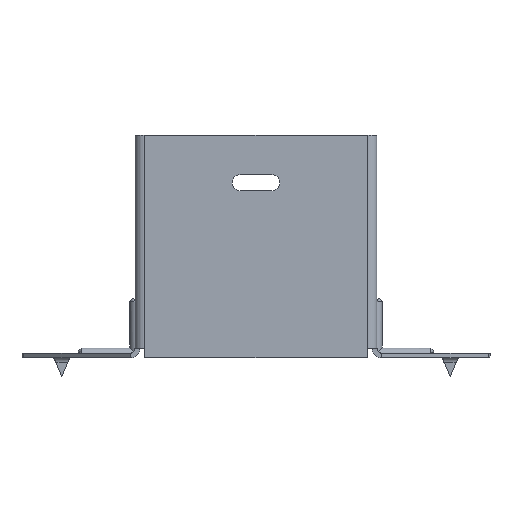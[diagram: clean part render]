
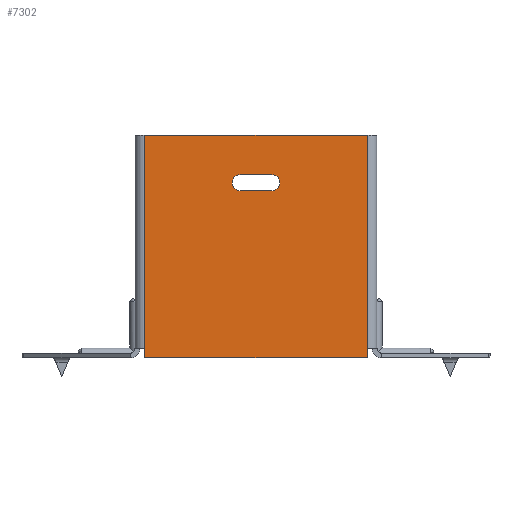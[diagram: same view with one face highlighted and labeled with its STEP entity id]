
A CAD part, front view. The second image highlights one B-rep face of the part: STEP entity #7302.
In plain terms, the highlighted planar face has unit normal (0, -1, 0).
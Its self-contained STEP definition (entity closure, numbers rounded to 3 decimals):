
#17 = CARTESIAN_POINT ( 'NONE',  ( -35., 0., -70. ) ) ;
#132 = DIRECTION ( 'NONE',  ( 0., 0., -1. ) ) ;
#233 = CARTESIAN_POINT ( 'NONE',  ( -35., 0., 0. ) ) ;
#237 = LINE ( 'NONE', #7113, #4536 ) ;
#347 = VERTEX_POINT ( 'NONE', #17 ) ;
#708 = VERTEX_POINT ( 'NONE', #877 ) ;
#877 = CARTESIAN_POINT ( 'NONE',  ( 5., 0., -17.5 ) ) ;
#969 = VERTEX_POINT ( 'NONE', #9516 ) ;
#1136 = FACE_BOUND ( 'NONE', #2893, .T. ) ;
#1384 = VECTOR ( 'NONE', #12018, 1000. ) ;
#1398 = CIRCLE ( 'NONE', #6059, 2.5 ) ;
#1715 = DIRECTION ( 'NONE',  ( 0., 0., -1. ) ) ;
#1828 = DIRECTION ( 'NONE',  ( 0., 0., 1. ) ) ;
#2000 = LINE ( 'NONE', #8238, #5307 ) ;
#2185 = EDGE_CURVE ( 'NONE', #3950, #9676, #9393, .T. ) ;
#2189 = CARTESIAN_POINT ( 'NONE',  ( -36.5, 0., -70. ) ) ;
#2257 = EDGE_CURVE ( 'NONE', #6564, #11476, #7963, .T. ) ;
#2522 = CARTESIAN_POINT ( 'NONE',  ( -5., 0., -17.5 ) ) ;
#2707 = ORIENTED_EDGE ( 'NONE', *, *, #4246, .F. ) ;
#2794 = CARTESIAN_POINT ( 'NONE',  ( 35., 0., -70. ) ) ;
#2893 = EDGE_LOOP ( 'NONE', ( #7548, #3332, #13251, #8605 ) ) ;
#3160 = VECTOR ( 'NONE', #10635, 1000. ) ;
#3332 = ORIENTED_EDGE ( 'NONE', *, *, #2185, .T. ) ;
#3453 = EDGE_CURVE ( 'NONE', #3836, #708, #1398, .T. ) ;
#3713 = EDGE_LOOP ( 'NONE', ( #13092, #12057, #2707, #11469, #6388, #12872 ) ) ;
#3836 = VERTEX_POINT ( 'NONE', #5404 ) ;
#3950 = VERTEX_POINT ( 'NONE', #2522 ) ;
#4095 = AXIS2_PLACEMENT_3D ( 'NONE', #5832, #7873, #1828 ) ;
#4239 = LINE ( 'NONE', #2794, #1384 ) ;
#4246 = EDGE_CURVE ( 'NONE', #8111, #347, #6618, .T. ) ;
#4536 = VECTOR ( 'NONE', #7150, 1000. ) ;
#4537 = CARTESIAN_POINT ( 'NONE',  ( 0., 0., 0. ) ) ;
#4725 = DIRECTION ( 'NONE',  ( 1., 0., 0. ) ) ;
#4856 = CARTESIAN_POINT ( 'NONE',  ( -36.5, 0., 0. ) ) ;
#5193 = EDGE_CURVE ( 'NONE', #969, #347, #8022, .T. ) ;
#5307 = VECTOR ( 'NONE', #132, 1000. ) ;
#5404 = CARTESIAN_POINT ( 'NONE',  ( 5., 0., -12.5 ) ) ;
#5670 = PLANE ( 'NONE',  #11731 ) ;
#5723 = CARTESIAN_POINT ( 'NONE',  ( -35., 0., 0. ) ) ;
#5832 = CARTESIAN_POINT ( 'NONE',  ( -5., 0., -15. ) ) ;
#6059 = AXIS2_PLACEMENT_3D ( 'NONE', #9799, #8681, #12842 ) ;
#6333 = CARTESIAN_POINT ( 'NONE',  ( 35., 0., -67. ) ) ;
#6388 = ORIENTED_EDGE ( 'NONE', *, *, #12682, .T. ) ;
#6496 = DIRECTION ( 'NONE',  ( 0., 0., 1. ) ) ;
#6564 = VERTEX_POINT ( 'NONE', #233 ) ;
#6618 = LINE ( 'NONE', #2189, #12074 ) ;
#7113 = CARTESIAN_POINT ( 'NONE',  ( -5., 0., -12.5 ) ) ;
#7150 = DIRECTION ( 'NONE',  ( 1., 0., 0. ) ) ;
#7302 = ADVANCED_FACE ( 'NONE', ( #1136, #9115 ), #5670, .F. ) ;
#7548 = ORIENTED_EDGE ( 'NONE', *, *, #9697, .T. ) ;
#7743 = CARTESIAN_POINT ( 'NONE',  ( 35., 0., 0. ) ) ;
#7856 = VECTOR ( 'NONE', #1715, 1000. ) ;
#7873 = DIRECTION ( 'NONE',  ( 0., 1., 0. ) ) ;
#7963 = LINE ( 'NONE', #4856, #13234 ) ;
#8022 = LINE ( 'NONE', #5723, #7856 ) ;
#8059 = CARTESIAN_POINT ( 'NONE',  ( -5., 0., -17.5 ) ) ;
#8111 = VERTEX_POINT ( 'NONE', #13191 ) ;
#8238 = CARTESIAN_POINT ( 'NONE',  ( -35., 0., 0. ) ) ;
#8605 = ORIENTED_EDGE ( 'NONE', *, *, #3453, .T. ) ;
#8614 = CARTESIAN_POINT ( 'NONE',  ( 35., 0., -70. ) ) ;
#8681 = DIRECTION ( 'NONE',  ( 0., 1., 0. ) ) ;
#8690 = DIRECTION ( 'NONE',  ( 0., 0., 1. ) ) ;
#8729 = LINE ( 'NONE', #8059, #3160 ) ;
#9115 = FACE_OUTER_BOUND ( 'NONE', #3713, .T. ) ;
#9393 = CIRCLE ( 'NONE', #4095, 2.5 ) ;
#9516 = CARTESIAN_POINT ( 'NONE',  ( -35., 0., -67. ) ) ;
#9676 = VERTEX_POINT ( 'NONE', #13032 ) ;
#9680 = DIRECTION ( 'NONE',  ( 0., 1., 0. ) ) ;
#9697 = EDGE_CURVE ( 'NONE', #708, #3950, #8729, .T. ) ;
#9799 = CARTESIAN_POINT ( 'NONE',  ( 5., 0., -15. ) ) ;
#10297 = LINE ( 'NONE', #8614, #12059 ) ;
#10372 = EDGE_CURVE ( 'NONE', #8111, #12289, #4239, .T. ) ;
#10635 = DIRECTION ( 'NONE',  ( -1., 0., 0. ) ) ;
#11046 = EDGE_CURVE ( 'NONE', #9676, #3836, #237, .T. ) ;
#11161 = EDGE_CURVE ( 'NONE', #6564, #969, #2000, .T. ) ;
#11362 = DIRECTION ( 'NONE',  ( -1., 0., 0. ) ) ;
#11469 = ORIENTED_EDGE ( 'NONE', *, *, #10372, .T. ) ;
#11476 = VERTEX_POINT ( 'NONE', #7743 ) ;
#11731 = AXIS2_PLACEMENT_3D ( 'NONE', #4537, #9680, #8690 ) ;
#12018 = DIRECTION ( 'NONE',  ( 0., 0., 1. ) ) ;
#12057 = ORIENTED_EDGE ( 'NONE', *, *, #5193, .T. ) ;
#12059 = VECTOR ( 'NONE', #6496, 1000. ) ;
#12074 = VECTOR ( 'NONE', #11362, 1000. ) ;
#12289 = VERTEX_POINT ( 'NONE', #6333 ) ;
#12682 = EDGE_CURVE ( 'NONE', #12289, #11476, #10297, .T. ) ;
#12842 = DIRECTION ( 'NONE',  ( 0., 0., 1. ) ) ;
#12872 = ORIENTED_EDGE ( 'NONE', *, *, #2257, .F. ) ;
#13032 = CARTESIAN_POINT ( 'NONE',  ( -5., 0., -12.5 ) ) ;
#13092 = ORIENTED_EDGE ( 'NONE', *, *, #11161, .T. ) ;
#13191 = CARTESIAN_POINT ( 'NONE',  ( 35., 0., -70. ) ) ;
#13234 = VECTOR ( 'NONE', #4725, 1000. ) ;
#13251 = ORIENTED_EDGE ( 'NONE', *, *, #11046, .T. ) ;
